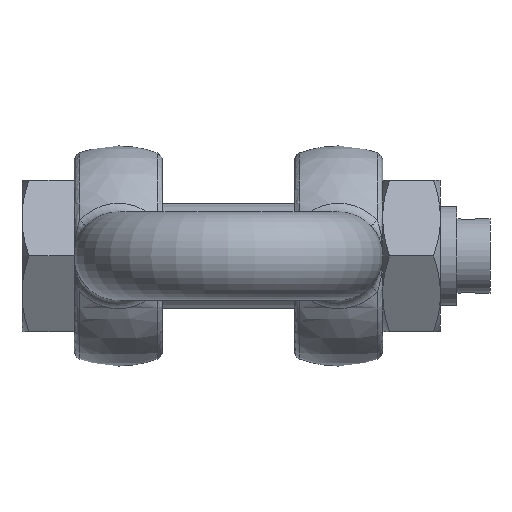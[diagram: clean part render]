
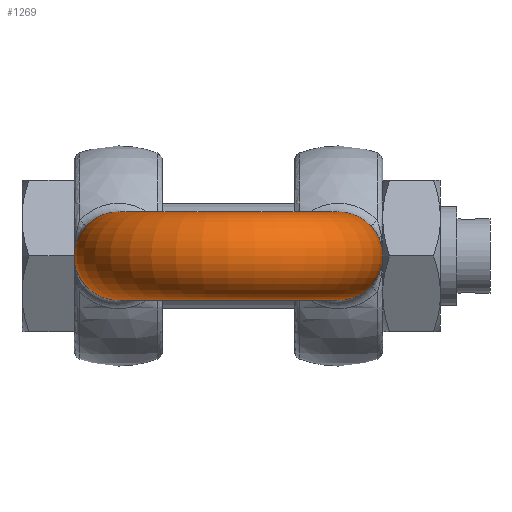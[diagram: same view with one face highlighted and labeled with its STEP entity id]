
A CAD part, front view. The second image highlights one B-rep face of the part: STEP entity #1269.
In plain terms, the highlighted toroidal (fillet/blend) face has major radius 40 mm and minor radius 16 mm.
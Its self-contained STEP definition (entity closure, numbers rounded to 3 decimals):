
#123=TOROIDAL_SURFACE('',#1441,40.,16.);
#234=FACE_OUTER_BOUND('',#322,.T.);
#322=EDGE_LOOP('',(#1018,#1019,#1020,#1021,#1022,#1023));
#482=CIRCLE('',#1439,16.);
#483=CIRCLE('',#1440,16.);
#484=CIRCLE('',#1442,24.);
#485=CIRCLE('',#1443,16.);
#486=CIRCLE('',#1444,16.);
#573=VERTEX_POINT('',#2887);
#574=VERTEX_POINT('',#2889);
#575=VERTEX_POINT('',#2893);
#576=VERTEX_POINT('',#2895);
#731=EDGE_CURVE('',#573,#574,#482,.T.);
#732=EDGE_CURVE('',#574,#573,#483,.T.);
#733=EDGE_CURVE('',#574,#575,#484,.T.);
#734=EDGE_CURVE('',#575,#576,#485,.T.);
#735=EDGE_CURVE('',#576,#575,#486,.T.);
#1018=ORIENTED_EDGE('',*,*,#732,.F.);
#1019=ORIENTED_EDGE('',*,*,#733,.T.);
#1020=ORIENTED_EDGE('',*,*,#734,.T.);
#1021=ORIENTED_EDGE('',*,*,#735,.T.);
#1022=ORIENTED_EDGE('',*,*,#733,.F.);
#1023=ORIENTED_EDGE('',*,*,#731,.F.);
#1269=ADVANCED_FACE('',(#234),#123,.T.);
#1439=AXIS2_PLACEMENT_3D('',#2890,#1669,#1670);
#1440=AXIS2_PLACEMENT_3D('',#2891,#1671,#1672);
#1441=AXIS2_PLACEMENT_3D('',#2892,#1673,#1674);
#1442=AXIS2_PLACEMENT_3D('',#2894,#1675,#1676);
#1443=AXIS2_PLACEMENT_3D('',#2896,#1677,#1678);
#1444=AXIS2_PLACEMENT_3D('',#2897,#1679,#1680);
#1669=DIRECTION('center_axis',(0.,1.,0.));
#1670=DIRECTION('ref_axis',(1.,0.,0.));
#1671=DIRECTION('center_axis',(0.,1.,0.));
#1672=DIRECTION('ref_axis',(1.,0.,0.));
#1673=DIRECTION('center_axis',(0.,0.,-1.));
#1674=DIRECTION('ref_axis',(-1.,0.,0.));
#1675=DIRECTION('center_axis',(0.,0.,1.));
#1676=DIRECTION('ref_axis',(-1.,0.,0.));
#1677=DIRECTION('center_axis',(0.,-1.,0.));
#1678=DIRECTION('ref_axis',(-1.,0.,0.));
#1679=DIRECTION('center_axis',(0.,-1.,0.));
#1680=DIRECTION('ref_axis',(-1.,0.,0.));
#2887=CARTESIAN_POINT('',(-56.,56.,0.));
#2889=CARTESIAN_POINT('',(-24.,56.,0.));
#2890=CARTESIAN_POINT('Origin',(-40.,56.,0.));
#2891=CARTESIAN_POINT('Origin',(-40.,56.,0.));
#2892=CARTESIAN_POINT('Origin',(0.,56.,0.));
#2893=CARTESIAN_POINT('',(24.,56.,0.));
#2894=CARTESIAN_POINT('Origin',(0.,56.,0.));
#2895=CARTESIAN_POINT('',(56.,56.,0.));
#2896=CARTESIAN_POINT('Origin',(40.,56.,0.));
#2897=CARTESIAN_POINT('Origin',(40.,56.,0.));
